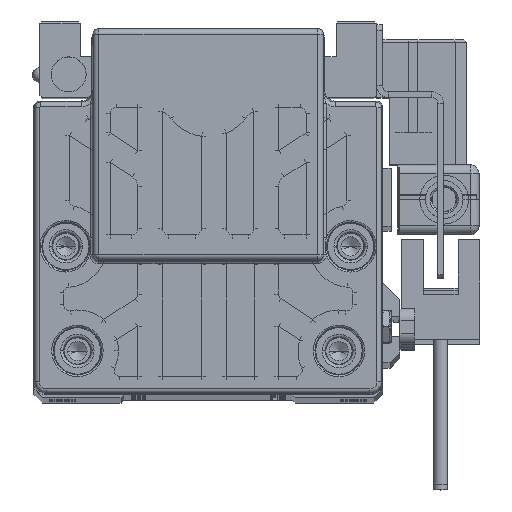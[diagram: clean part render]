
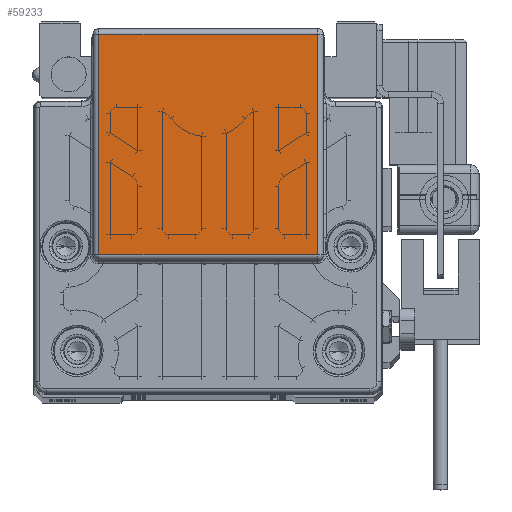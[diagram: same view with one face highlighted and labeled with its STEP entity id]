
A CAD part, top view. The second image highlights one B-rep face of the part: STEP entity #59233.
In plain terms, the highlighted planar face has unit normal (0, 0, 1) as drawn and (0, 0, -1) by its records, which use the part's own axes.
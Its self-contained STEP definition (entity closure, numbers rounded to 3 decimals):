
#613 = CARTESIAN_POINT ( 'NONE',  ( 19., 24.518, -143. ) ) ;
#1055 = CARTESIAN_POINT ( 'NONE',  ( 18.808, 24.518, -143. ) ) ;
#1410 = VERTEX_POINT ( 'NONE', #38844 ) ;
#1993 = DIRECTION ( 'NONE',  ( 1., 0., 0. ) ) ;
#7378 = EDGE_CURVE ( 'NONE', #1410, #60479, #21176, .T. ) ;
#9197 = FACE_OUTER_BOUND ( 'NONE', #53833, .T. ) ;
#12276 = CARTESIAN_POINT ( 'NONE',  ( 18.808, 24.5, -143. ) ) ;
#12339 = VERTEX_POINT ( 'NONE', #59728 ) ;
#13299 = EDGE_CURVE ( 'NONE', #45084, #12339, #23204, .T. ) ;
#15469 = AXIS2_PLACEMENT_3D ( 'NONE', #60897, #45160, #50971 ) ;
#18192 = DIRECTION ( 'NONE',  ( 0., -1., 0. ) ) ;
#21176 = LINE ( 'NONE', #613, #66722 ) ;
#23204 = LINE ( 'NONE', #44744, #38264 ) ;
#23989 = ORIENTED_EDGE ( 'NONE', *, *, #43953, .F. ) ;
#24283 = PLANE ( 'NONE',  #15469 ) ;
#33597 = LINE ( 'NONE', #65058, #40196 ) ;
#38264 = VECTOR ( 'NONE', #1993, 1000. ) ;
#38844 = CARTESIAN_POINT ( 'NONE',  ( -18.808, 24.518, -143. ) ) ;
#40196 = VECTOR ( 'NONE', #18192, 1000. ) ;
#41691 = DIRECTION ( 'NONE',  ( 1., 0., 0. ) ) ;
#43769 = DIRECTION ( 'NONE',  ( 0., 1., 0. ) ) ;
#43953 = EDGE_CURVE ( 'NONE', #60479, #12339, #59509, .T. ) ;
#44744 = CARTESIAN_POINT ( 'NONE',  ( 19., 62.447, -143. ) ) ;
#45084 = VERTEX_POINT ( 'NONE', #49916 ) ;
#45160 = DIRECTION ( 'NONE',  ( 0., 0., -1. ) ) ;
#45501 = ORIENTED_EDGE ( 'NONE', *, *, #53489, .F. ) ;
#49916 = CARTESIAN_POINT ( 'NONE',  ( -18.808, 62.447, -143. ) ) ;
#50971 = DIRECTION ( 'NONE',  ( 0., 1., 0. ) ) ;
#51649 = ORIENTED_EDGE ( 'NONE', *, *, #13299, .T. ) ;
#52539 = ORIENTED_EDGE ( 'NONE', *, *, #7378, .F. ) ;
#53489 = EDGE_CURVE ( 'NONE', #45084, #1410, #33597, .T. ) ;
#53833 = EDGE_LOOP ( 'NONE', ( #23989, #52539, #45501, #51649 ) ) ;
#56079 = VECTOR ( 'NONE', #43769, 1000. ) ;
#59233 = ADVANCED_FACE ( 'NONE', ( #9197 ), #24283, .T. ) ;
#59509 = LINE ( 'NONE', #12276, #56079 ) ;
#59728 = CARTESIAN_POINT ( 'NONE',  ( 18.808, 62.447, -143. ) ) ;
#60479 = VERTEX_POINT ( 'NONE', #1055 ) ;
#60897 = CARTESIAN_POINT ( 'NONE',  ( 19., 24.5, -143. ) ) ;
#65058 = CARTESIAN_POINT ( 'NONE',  ( -18.808, 31., -143. ) ) ;
#66722 = VECTOR ( 'NONE', #41691, 1000. ) ;
